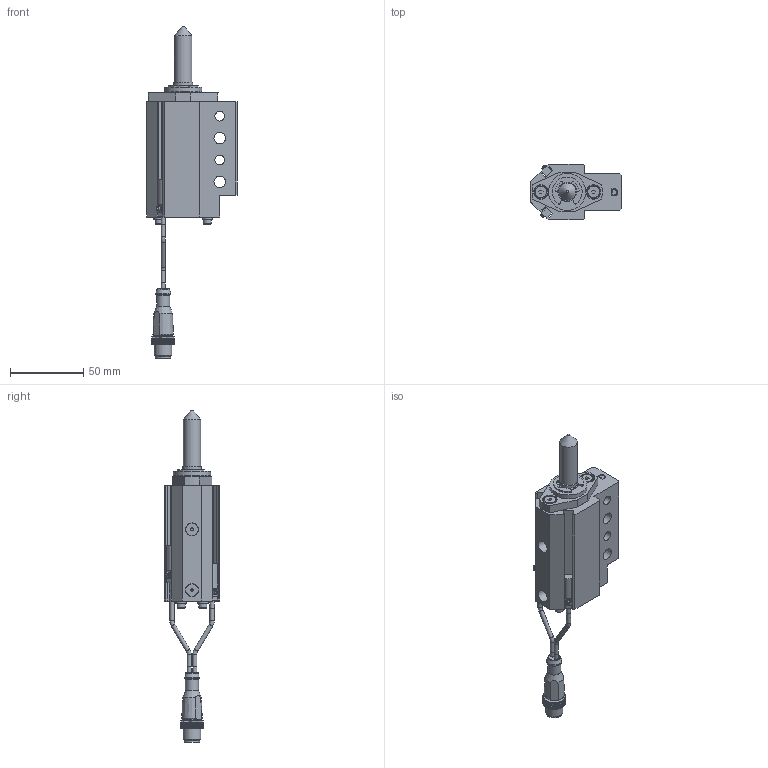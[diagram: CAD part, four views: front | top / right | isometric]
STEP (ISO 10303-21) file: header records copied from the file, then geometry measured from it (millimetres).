
FILE_DESCRIPTION(/* description */ ('NAAMS FLOATING MICRO PIN'),/* implementation_level */ '2;1');
FILE_NAME(/* name */ 'C:\Vault Workspace\CAD\Welker\Shot Pin\NMP\NMP120032ADNL3.stp',/* time_stamp */ '2021-01-27T10:42:18-05:00',/* author */ ('WELKER'),/* organization */ (''),/* preprocessor_version */ 'ST-DEVELOPER v18.1',/* originating_system */ 'Autodesk Inventor 2020',/* authorisation */ '');
FILE_SCHEMA (('AUTOMOTIVE_DESIGN { 1 0 10303 214 3 1 1 }'));
Length unit declared in the file: millimetre
Products named in the file (16): NMPL01; NMP L3 SWITCH; L3 Connector; L3 Sensor 1; L3 Sensor 2; L3 Sensor cable; L3 Sensor cable 2; M3X0.5-8 SHCS; NL3; NMPE06; NMPE03; NMPE05-DIA-LENGTH; 985432A218; NMPE01D-PORT; RMPE02; M5X5 SHOULDER
Assembly tree (22 placements, depth 3):
  NMPL01
    NMP L3 SWITCH
      L3 Connector
      L3 Sensor 1
      L3 Sensor 2
      L3 Sensor cable
      L3 Sensor cable 2
    M3X0.5-8 SHCS  x4
    NL3  x4
    NMPE06
    NMPE03
    NMPE05-DIA-LENGTH
    985432A218
    NMPE01D-PORT
    RMPE02
    M5X5 SHOULDER  x2
Bounding box: 62 x 38.1 x 227.12 mm (x, y, z)
Volume: 114721.6 mm3; surface area: 45886 mm2
Topology: 21 solids, 21 shells, 747 faces, 2022 edges, 1352 vertices
Faces by surface type: plane 548, cylinder 144, cone 31, torus 11, bspline 10, sphere 3
Full cylindrical faces by diameter (mm): 2 x2, 2.459 x4, 2.9 x10, 3 x5, 3.242 x2, 3.4 x4, 4 x2, 5 x6, 5.5 x4, 6.647 x2, 7 x4, 8 x2, 8.3 x2, 9 x3, 10 x3, 10.4 x1, 10.5 x1, 12 x2, 13 x3, 16 x2, 19.05 x3, 21 x1, 22.5 x1, 23.672 x1, 24 x1, 25.4 x1, 25.5 x1, 26.5 x1, 28.677 x1, 29.21 x1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
Entity records: 22825 total; most frequent: CARTESIAN_POINT 4228, ORIENTED_EDGE 3742, DIRECTION 3699, EDGE_CURVE 1871, LINE 1375, VECTOR 1375, VERTEX_POINT 1257, AXIS2_PLACEMENT_3D 1162
